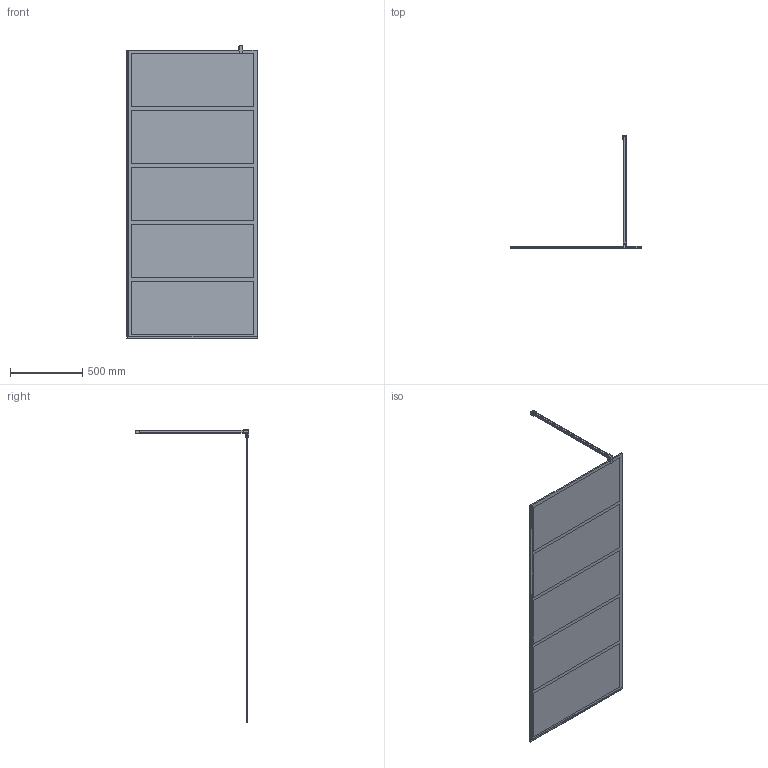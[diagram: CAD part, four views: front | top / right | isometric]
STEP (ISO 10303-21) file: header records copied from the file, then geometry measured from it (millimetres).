
FILE_DESCRIPTION(/* description */ ('Стенка задняя'),/* implementation_level */ '2;1');
FILE_NAME(/* name */ 'C:\Users\GWPC-133\Desktop\3DDDD\GLASS LINE GK-018LOFTLN STB Q 3D левая.stp',/* time_stamp */ '2022-09-14T18:47:04+03:00',/* author */ ('GWPC-133'),/* organization */ (''),/* preprocessor_version */ 'ST-DEVELOPER v15.2',/* originating_system */ 'Autodesk Inventor 2014',/* authorisation */ '');
FILE_SCHEMA (('AUTOMOTIVE_DESIGN { 1 0 10303 214 3 1 1 }'));
Length unit declared in the file: millimetre
Products named in the file (9): Стекло.02 (22) TR; UP008K; Профиль 13х13 (
стекло 10 мм); UP008K.01; Профиль 13х13 (
стекло 10 мм)_2; STB-Q RS-MT-00 (труба); STB-Q RS-MT-04; STB-Q RS-MT-05; GLASS LINE GK-010BL ЛЕВАЯ (\X2\043C
043E04340435043B044C\X0\)
Bounding box: 903 x 786.5 x 2035 mm (x, y, z)
Volume: 18270834.2 mm3; surface area: 4053774.7 mm2
Topology: 8 solids, 8 shells, 132 faces, 329 edges, 219 vertices
Faces by surface type: plane 100, cylinder 31, cone 1
Full cylindrical faces by diameter (mm): 4.2 x6, 5.2 x1, 6 x6
Entity records: 4159 total; most frequent: CARTESIAN_POINT 683, DIRECTION 676, ORIENTED_EDGE 630, EDGE_CURVE 315, LINE 252, VECTOR 252, VERTEX_POINT 219, AXIS2_PLACEMENT_3D 212
